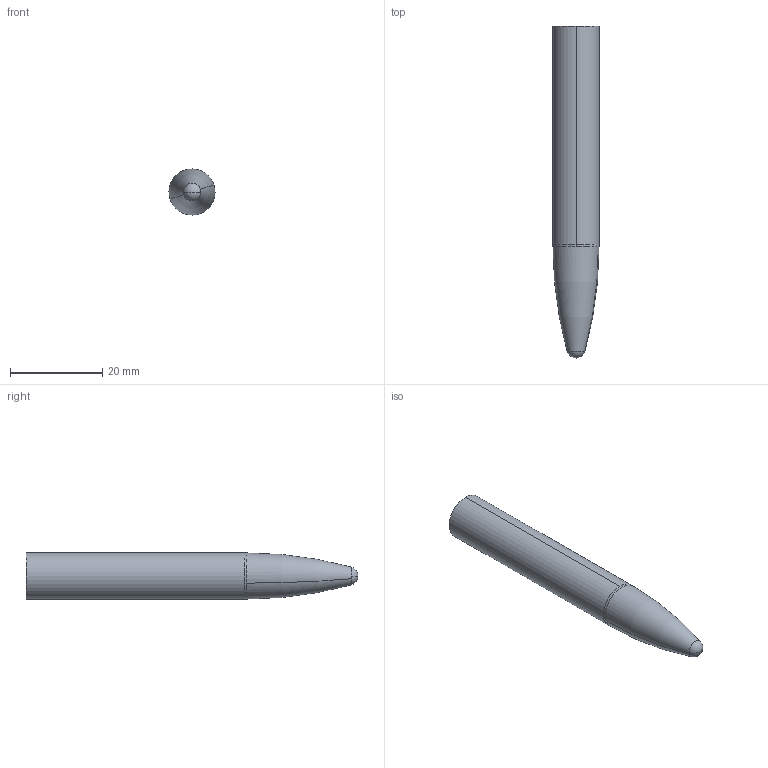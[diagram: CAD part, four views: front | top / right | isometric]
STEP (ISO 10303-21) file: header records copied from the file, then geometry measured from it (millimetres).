
FILE_DESCRIPTION((' '),'2;1');
FILE_NAME( '10MM X R85MM OVAL.stp', '2023-03-22T15:23:30', (' '), ('--- Datakit www.datakit.com---'), ' Datakit CrossCadWare V2022.2 Mar 12 2022', 'Mastercam 2023', ' ');
FILE_SCHEMA(('AUTOMOTIVE_DESIGN { 1 0 10303 214 1 1 1 1 }'));
Length unit declared in the file: inch
Products named in the file (1): 10MM X R85MM OVAL
Bounding box: 10 x 72 x 10 mm (x, y, z)
Volume: 4959.5 mm3; surface area: 2173.7 mm2
Topology: 1 solids, 1 shells, 9 faces, 23 edges, 14 vertices
Faces by surface type: cylinder 4, sphere 2, torus 2, plane 1
Entity records: 296 total; most frequent: DIRECTION 58, CARTESIAN_POINT 45, ORIENTED_EDGE 42, AXIS2_PLACEMENT_3D 27, EDGE_CURVE 21, CIRCLE 17, VERTEX_POINT 14, EDGE_LOOP 9
